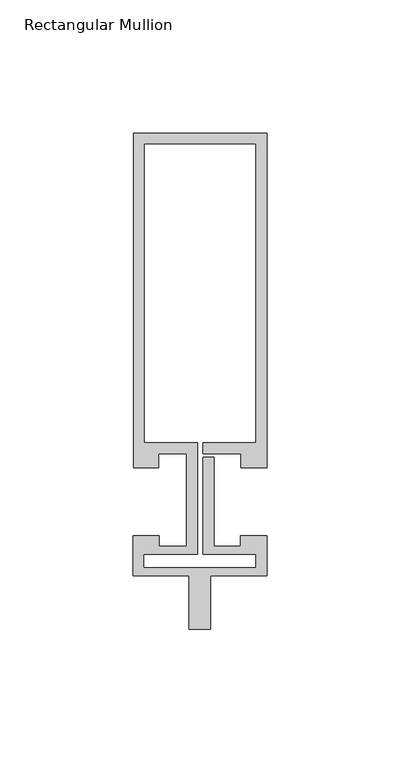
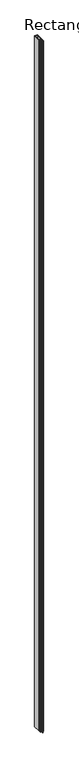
"""IFC4 building model written with IfcOpenShell, lengths in millimetres: member geometry, Rectangular Mullion : Reynaers_CW-50_Transom-Transom_125.5mm_Facecap-06A."""

from ifc_helpers import new_model, si_unit, frame, origin, place, context, project, spatial, polyline, outline, extrude, source, transform, mapped, element, save


def rectangular_mullion_7f9c3200(model_context):
    return source(origin(), model_context, "Body", "SweptSolid", [
        extrude(outline(polyline([(25.1995941, 12.7331291), (15.499, 12.7331291), (15.499, 18.1331291), (1.2995941, 18.1331291), (1.2995941, 22.1331291), (21.1995941, 22.1331291), (21.1995941, 134.2331291), (-20.8004059, 134.2331291), (-20.8004059, 22.1331291), (-0.9004059, 22.1331291), (-0.9004059, -19.7331291), (-20.994845, -19.7331291), (-20.994845, -24.6522629), (21.1995941, -24.6522629), (21.1995941, -19.7331291), (1.2995941, -19.7331291), (1.2995941, 16.7615089), (5.2995941, 16.7615089), (5.2995941, -16.7331291), (15.2996495, -16.7331291), (15.2996495, -12.7331291), (25.1995941, -12.7331291), (25.1995941, -27.7331291), (4.004855, -27.7331291), (4.004855, -47.7331291), (-3.995145, -47.7331291), (-3.995145, -27.7331291), (-24.994845, -27.7331291), (-24.994845, -12.7331291), (-15.2996495, -12.7331291), (-15.2996495, -16.7331291), (-4.9004059, -16.7331291), (-4.9004059, 18.1331291), (-15.499, 18.1331291), (-15.499, 12.7331291), (-24.8004059, 12.7331291), (-24.8004059, 138.2331291), (25.1995941, 138.2331291), (25.1995941, 12.7331291)])), frame((0.0, 0.0, -12000.0), z_axis=(0.0, 0.0, 1.0), x_axis=(1.0, 0.0, 0.0)), (0.0, 0.0, 1.0), 12000.0),
    ])


if __name__ == "__main__":
    model = new_model("IFC4")
    model_context = context("Model", 3, world=origin())
    ifc_project = project(units=[si_unit("LENGTHUNIT", "METRE", prefix="MILLI")], contexts=[model_context])
    site = spatial("IfcSite", under=ifc_project)
    building = spatial("IfcBuilding", under=site)
    placement = place(None, origin())
    rectangular_mullion_shape = rectangular_mullion_7f9c3200(model_context)
    element("IfcMember", 1, ObjectType="Rectangular Mullion : Reynaers_CW-50_Transom-Transom_125.5mm_Facecap-06A", at=placement, inside=building, context=model_context, shape_type="MappedRepresentation", body=[
        mapped(rectangular_mullion_shape, transform((0.0, 0.0, 0.0), x_axis=(1.0, 0.0, 0.0), y_axis=(0.0, 1.0, 0.0), z_axis=(0.0, 0.0, 1.0))),
    ])
    save(model, "model.ifc")
